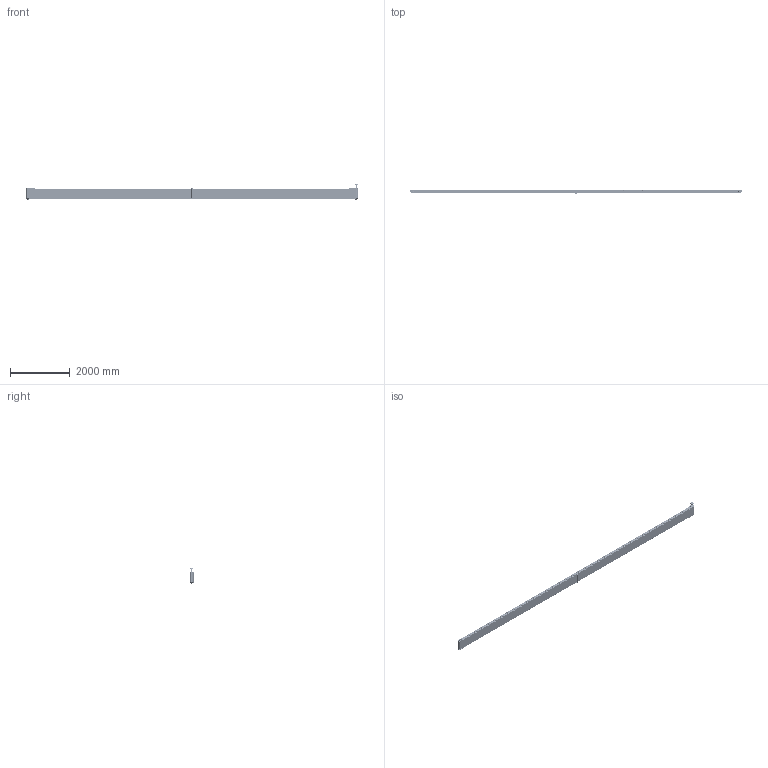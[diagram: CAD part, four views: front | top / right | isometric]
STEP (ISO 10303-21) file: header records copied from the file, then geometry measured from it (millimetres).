
FILE_DESCRIPTION (( 'STEP AP203' ), '1' );
FILE_NAME ('NASTRO_RETTILINEO_TAPPETO.step', '2026-04-22T07:51:18', ( 'Utente Windows' ), ( '' ), 'SwSTEP 2.0', 'SolidWorks 2024', '' );
FILE_SCHEMA (( 'CONFIG_CONTROL_DESIGN' ));
Length unit declared in the file: millimetre
Products named in the file (51): RULLO_REGGITAPPETO; BLOCCO_PERNO_95_RINVIO; 084.302.060; TELAIO_95_STANDARD_Default<A macchina>; 084.802.067_Default<A macchina>; 084.803.003; 084.808.002_084.808.002; VITE_DADO_M5X12; 084.802.019_084.802.019; BLOCCO_BRACCIO_CH05P_CH05P; BLOCCO_TRAINO_95_STANDARD_CON TENDINASTRO E CARTER; 25UNI7435; 084.802.014; 084.802.028; 084.803.017; 084.802.034_084.802.034; NASTRO_RETTILINEO_TAPPETO; 084.808.013; 084.812.002; VITI TSEI UNI 5933_M5x12 UNI 5933; 084.802.060_Default<A macchina>; VITI TE UNI 5739_M8x16 UNI 5739; VITI TSEI UNI 5933_M4x12 UNI 5933; VITE_RONDELLA_M8X20; VITI TCEI UNI 5931_M4x25 UNI 5931; 084.301.000 VITI ALUSIC_084.301.003; 084.302.000 DADI ALUSIC 13x13-1_084.302.004; CHIAVETTE_A 8x7x70 UNI 6604-69; RULLO_95_Default<A macchina>; 084.302.000 DADI ALUSIC 13x13-1_084.302.007; TAPPETO_STANDARD; CHIAVETTE_A 8x7x20 UNI 6604-69; 084.802.017_084.802.017; 30UNI7435; 084.802.068; LAMIERA_STANDARD; 084.802.071; BLOCCO_TRAINO_95_STANDARD_49_DX_CON TENDINASTRO E SENZA CARTER; 084.802.013-2; BLOCCO_PERNO_95_49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
Assembly tree (226 placements, depth 4):
  NASTRO_RETTILINEO_TAPPETO
    TAPPETO_STANDARD
    TELAIO_95_STANDARD_Default<A macchina>
    LAMIERA_STANDARD  x5
    RULLO_95_Default<A macchina>  x2
    BLOCCO_PERNO_95_49
      084.812.002
      084.810.003
      CHIAVETTE_A 8x7x70 UNI 6604-69
      CHIAVETTE_A 8x7x20 UNI 6604-69
      RONDELLE FASCIA LARGA UNI 6593_8.4x32 UNI 6593
      VITI TE UNI 5739_M8x16 UNI 5739
      25UNI7435
      30UNI7435
    BLOCCO_TRAINO_95_STANDARD_49_DX_CON TENDINASTRO E SENZA CARTER
      084.808.003_084.808.003
      084.302.060  x2
      084.802.034_084.802.034
      084.301.000 VITI ALUSIC_084.301.003  x6
      084.802.067_Default<A macchina>
      VITI TCEI UNI 5931_M4x25 UNI 5931  x2
      BLOCCO_BRACCIO_CH05P_CH05P
        084.808.013
        084.802.062
        084.802.060_Default<A macchina>
        VITI TE UNI 5739_M8x12 UNI 5739  x4
        VITI TE UNI 5739_M6x12 UNI 5739  x4
        084.803.017
        VITI TCEI UNI 5931_M6x12 UNI 5931  x4
    BLOCCO_PERNO_95_RINVIO  x3
      084.812.003
      084.810.003
      30UNI7435
    BLOCCO_TRAINO_95_STANDARD_CON TENDINASTRO E CARTER
      084.808.002_084.808.002
      084.302.060  x2
      084.802.019_084.802.019
      084.301.000 VITI ALUSIC_084.301.003  x6
      VITI TCEI UNI 5931_M4x25 UNI 5931  x2
      084.802.071
      084.802.068
      VITI TSEI UNI 5933_M4x12 UNI 5933  x2
    BLOCCO_RINVIO_95_STANDARD_CON TENDINASTRO E CARTER  x2
      084.808.002_084.808.002
      084.803.003
      084.302.060
      084.802.019_084.802.019
      VITI TSEI UNI 5933_M4x12 UNI 5933
      084.302.000 DADI ALUSIC 13x13-1_084.302.004
      084.301.000 VITI ALUSIC_084.301.003
      084.802.071
    VITE_RONDELLA_M8X20  x69
      084.303.001
      084.301.000 VITI ALUSIC_084.301.003
    VITE_DADO_M5X12  x50
      084.302.000 DADI ALUSIC 13x13-1_084.302.007
      VITI TSEI UNI 5933_M5x12 UNI 5933
    BLOCCO_REGGITAPPETO  x2
      084.301.000 VITI ALUSIC_084.301.003
      084.302.000 DADI ALUSIC 13x13-1_084.302.004
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Bounding box: 11106.5 x 163.5 x 504 mm (x, y, z)
Volume: 51240871.7 mm3; surface area: 45276134.7 mm2
Topology: 444 solids, 449 shells, 13634 faces, 34958 edges, 22453 vertices
Faces by surface type: plane 7617, cylinder 3541, cone 1081, torus 719, bspline 612, sphere 64
Entity records: 243416 total; most frequent: CARTESIAN_POINT 68609, ORIENTED_EDGE 35958, DIRECTION 32831, EDGE_CURVE 17979, VERTEX_POINT 11684, LINE 11169, VECTOR 11169, AXIS2_PLACEMENT_3D 10831
